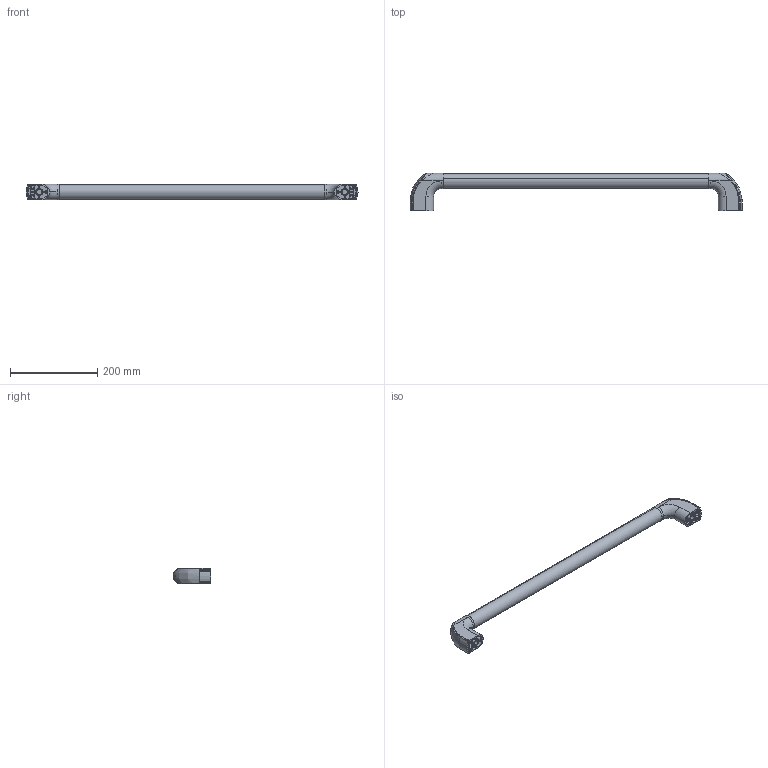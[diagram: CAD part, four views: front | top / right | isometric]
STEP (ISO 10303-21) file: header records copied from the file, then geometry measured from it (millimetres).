
FILE_DESCRIPTION (( 'STEP AP203' ), '1' );
FILE_NAME ('SK4-224-34-700C.STEP', '2017-06-27T06:19:13', ( 'admin' ), ( 'Microsoft' ), 'SwSTEP 2.0', 'SolidWorks 2015', '' );
FILE_SCHEMA (( 'CONFIG_CONTROL_DESIGN' ));
Length unit declared in the file: millimetre
Products named in the file (3): SK4-224-34-700C 釱赽; SK4-224-34-700C 裝赽; SK4-224-34-700C
Assembly tree (3 placements, depth 2):
  SK4-224-34-700C
    SK4-224-34-700C 釱赽  x2
    SK4-224-34-700C 裝赽
Bounding box: 760 x 85.5 x 35 mm (x, y, z)
Volume: 800753.1 mm3; surface area: 123997.6 mm2
Topology: 3 solids, 3 shells, 338 faces, 918 edges, 602 vertices
Faces by surface type: cylinder 162, plane 152, bspline 20, torus 4
Entity records: 7109 total; most frequent: CARTESIAN_POINT 2406, DIRECTION 930, ORIENTED_EDGE 924, EDGE_CURVE 462, AXIS2_PLACEMENT_3D 327, VERTEX_POINT 303, LINE 276, VECTOR 276
